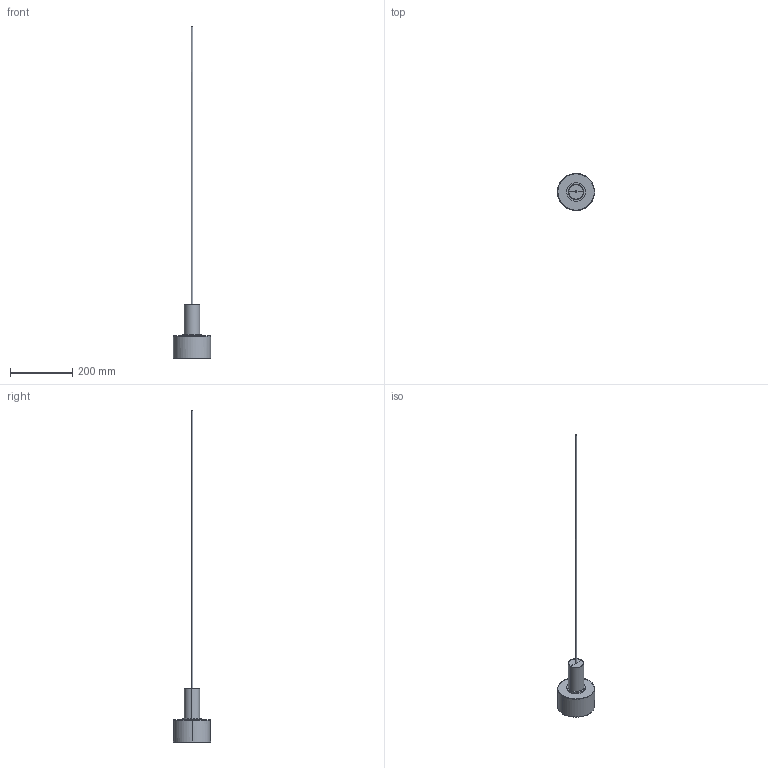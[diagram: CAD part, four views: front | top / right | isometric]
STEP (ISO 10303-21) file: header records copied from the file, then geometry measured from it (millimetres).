
FILE_DESCRIPTION(/* description */ (''),/* implementation_level */ '2;1');
FILE_NAME(/* name */ 'CVXH3I~0',/* time_stamp */ '2018-04-03T17:13:33+02:00',/* author */ (''),/* organization */ (''),/* preprocessor_version */ 'ST-DEVELOPER v15',/* originating_system */ '',/* authorisation */ '');
FILE_SCHEMA (('AUTOMOTIVE_DESIGN'));
Length unit declared in the file: millimetre
Products named in the file (1): Document
Bounding box: 119.52 x 119.34 x 1070.23 mm (x, y, z)
Volume: 65713.2 mm3; surface area: 128184.8 mm2
Topology: 3 solids, 10 shells, 36 faces, 76 edges, 48 vertices
Faces by surface type: bspline 36
Entity records: 1954 total; most frequent: CARTESIAN_POINT 1047, ORIENTED_EDGE 132, PCURVE 132, DEFINITIONAL_REPRESENTATION 132, B_SPLINE_CURVE_WITH_KNOTS 126, SURFACE_CURVE 76, EDGE_CURVE 76, VERTEX_POINT 48
